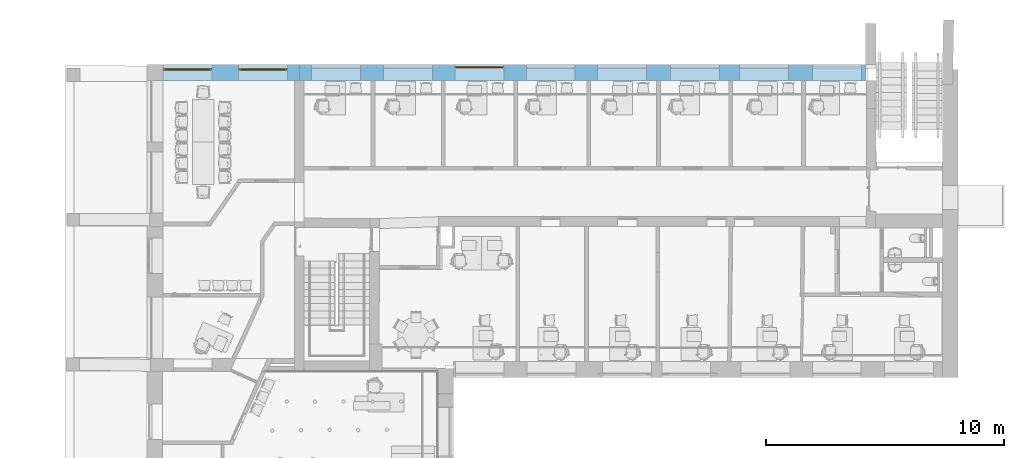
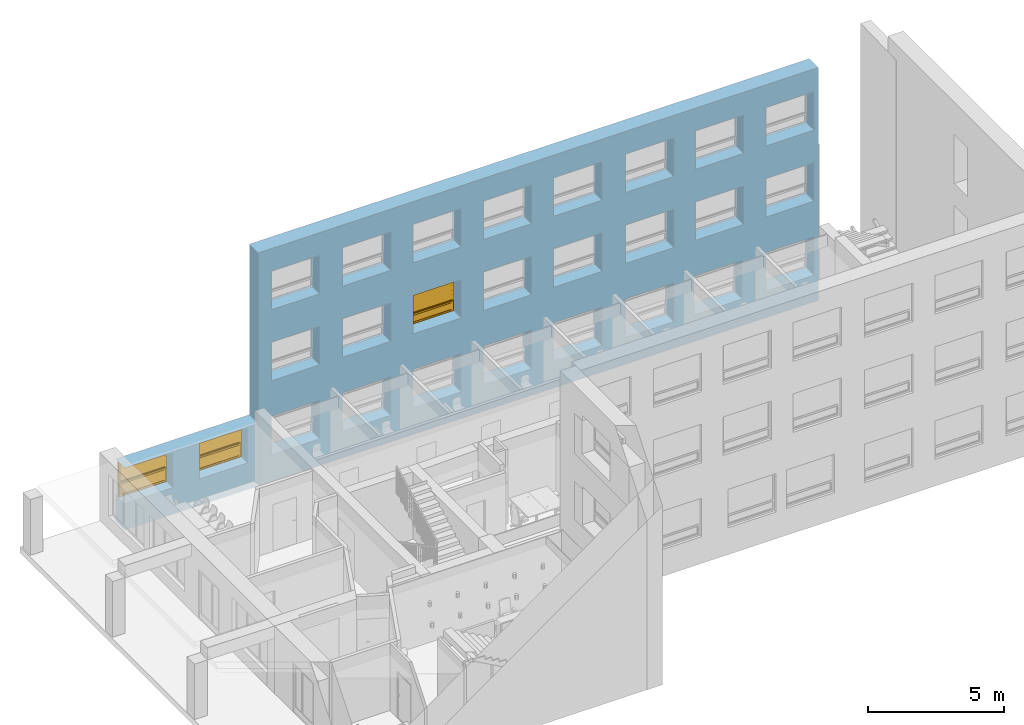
"""IFC2X3 building model written with IfcOpenShell, lengths in millimetres."""

import ifcopenshell
import ifcopenshell.guid

model = None  # the IFC model being written
_history = None  # IfcOwnerHistory: only IFC2X3 demands one
_inside = {}  # id of a spatial element -> (the spatial element, [elements in it])
_under = {}  # id of a project, library or spatial element -> (it, [spatial elements below it])
_declared = {}  # id of a project -> (the project, [libraries it declares])
_typed = {}  # id of a type object -> (the type object, [elements of that type])
_made_of = {}  # id of a material, layer set ... -> (it, [elements and type objects made of it])


def new_model(schema):
    """Start an empty IFC model of exactly this schema.

    Asked for "IFC4X3", IfcOpenShell would pick the latest addendum, in which some entities
    have other attributes; the version numbers below select the first issue.
    IFC2X3 requires an IfcOwnerHistory on every rooted entity: one is made here for all.
    """
    global model, _history
    if schema == "IFC4X3":
        model = ifcopenshell.file(schema_version=(4, 3, 0, 0))
    else:
        model = ifcopenshell.file(schema=schema)
    _inside.clear()
    _under.clear()
    _declared.clear()
    _typed.clear()
    _made_of.clear()
    _history = None
    if model.schema == "IFC2X3":
        org = make("IfcOrganization", Name="unknown")
        user = make(
            "IfcPersonAndOrganization",
            ThePerson=make("IfcPerson", FamilyName="unknown"),
            TheOrganization=org,
        )
        app = make(
            "IfcApplication",
            ApplicationDeveloper=org,
            Version="unknown",
            ApplicationFullName="unknown",
            ApplicationIdentifier="unknown",
        )
        _history = make(
            "IfcOwnerHistory",
            OwningUser=user,
            OwningApplication=app,
            ChangeAction="ADDED",
            CreationDate=0,
        )
    return model


def make(cls, **values):
    """One entity of the class cls with the attributes given. An attribute that is None is left unset."""
    return model.create_entity(
        cls, **{name: value for name, value in values.items() if value is not None}
    )


def entity(cls, *values):
    """Any entity or typed value of the class cls, its attributes in the order of the schema. None: left unset."""
    e = model.create_entity(cls)
    for i, value in enumerate(values):
        if value is not None:
            e[i] = value
    return e


def rooted(cls, **values):
    """An entity with a GlobalId (a new one), such as an element, a storey or a relation."""
    return make(cls, GlobalId=ifcopenshell.guid.new(), OwnerHistory=_history, **values)


def si_unit(unit_type, name, prefix=None):
    """IfcSIUnit, for example si_unit("LENGTHUNIT", "METRE", prefix="MILLI")."""
    return make("IfcSIUnit", UnitType=unit_type, Prefix=prefix, Name=name)


def converted_unit(unit_type, name, factor, base, dimensions=None, offset=None):
    """IfcConversionBasedUnit, such as the inch: factor (a typed value) times the base unit."""
    return make(
        "IfcConversionBasedUnit"
        if offset is None
        else "IfcConversionBasedUnitWithOffset",
        ConversionOffset=offset,
        Dimensions=None
        if dimensions is None
        else entity("IfcDimensionalExponents", *dimensions),
        UnitType=unit_type,
        Name=name,
        ConversionFactor=make(
            "IfcMeasureWithUnit", ValueComponent=factor, UnitComponent=base
        ),
    )


def derived_unit(unit_type, elements):
    """IfcDerivedUnit: a product of units, each with its exponent."""
    return make(
        "IfcDerivedUnit",
        Elements=[
            make("IfcDerivedUnitElement", Unit=unit, Exponent=power)
            for unit, power in elements
        ],
        UnitType=unit_type,
    )


def assignment(units):
    """IfcUnitAssignment: the units of a project."""
    return None if units is None else make("IfcUnitAssignment", Units=units)


def point(xyz):
    """IfcCartesianPoint."""
    return None if xyz is None else make("IfcCartesianPoint", Coordinates=xyz)


def direction(xyz):
    """IfcDirection."""
    return None if xyz is None else make("IfcDirection", DirectionRatios=xyz)


def frame(location, z_axis=None, x_axis=None):
    """IfcAxis2Placement3D, a coordinate frame: its origin and axes. An axis left out is left unset."""
    return make(
        "IfcAxis2Placement3D",
        Location=point(location),
        Axis=direction(z_axis),
        RefDirection=direction(x_axis),
    )


def frame_2d(location, x_axis=None):
    """IfcAxis2Placement2D, a coordinate frame in the plane: its origin and x axis."""
    return make(
        "IfcAxis2Placement2D", Location=point(location), RefDirection=direction(x_axis)
    )


def origin():
    """The frame at (0, 0, 0) with its axes left unset."""
    return frame((0.0, 0.0, 0.0))


def place(relative_to, where):
    """IfcLocalPlacement: puts the frame where relative to a parent placement (None: the world)."""
    return make(
        "IfcLocalPlacement", PlacementRelTo=relative_to, RelativePlacement=where
    )


def context(
    kind, dimensions, precision=None, world=None, true_north=None, identifier=None
):
    """IfcGeometricRepresentationContext, for example the 3D "Model" context."""
    return make(
        "IfcGeometricRepresentationContext",
        ContextIdentifier=identifier,
        ContextType=kind,
        CoordinateSpaceDimension=dimensions,
        Precision=precision,
        WorldCoordinateSystem=world,
        TrueNorth=true_north,
    )


def subcontext(parent, identifier, kind, view, scale=None):
    """IfcGeometricRepresentationSubContext, for example "Body" below "Model"."""
    return make(
        "IfcGeometricRepresentationSubContext",
        ContextIdentifier=identifier,
        ContextType=kind,
        ParentContext=parent,
        TargetScale=scale,
        TargetView=view,
    )


def project(units=None, contexts=None):
    """IfcProject with its units and contexts."""
    return rooted(
        "IfcProject",
        Name="project",
        RepresentationContexts=contexts,
        UnitsInContext=assignment(units),
    )


def spatial(cls, under=None, at=None, **own):
    """A site, building, storey or space (cls), placed at a placement, below another one or the project."""
    s = rooted(cls, ObjectPlacement=at, **own)
    if under is not None:
        _under.setdefault(under.id(), (under, []))[1].append(s)
    return s


def profile(cls, at=None, kind="AREA", **sizes):
    """A parametric profile (cls). Its sizes go by their IFC names, for example OverallWidth=200.0."""
    return make(cls, ProfileType=kind, Position=at, **sizes)


def rectangle(**sizes):
    """IfcRectangleProfileDef."""
    return profile("IfcRectangleProfileDef", **sizes)


def extrude(swept, where, along, depth):
    """IfcExtrudedAreaSolid: the profile swept, set in the frame where, extruded along a direction by depth."""
    return make(
        "IfcExtrudedAreaSolid",
        SweptArea=swept,
        Position=where,
        ExtrudedDirection=direction(along),
        Depth=depth,
    )


def faces_of(points, faces, orient=None, outer=None):
    """IfcFace entities. A face is a list of loops; a loop is a list of indices into points, from 0.

    orient and outer hold one flag for each loop. By default every Orientation is true, the
    first loop of a face is its IfcFaceOuterBound and the others are IfcFaceBound.
    """
    made = []
    for i, loops in enumerate(faces):
        bounds = []
        for j, loop in enumerate(loops):
            is_outer = j == 0 if outer is None else outer[i][j]
            bounds.append(
                make(
                    "IfcFaceOuterBound" if is_outer else "IfcFaceBound",
                    Bound=make("IfcPolyLoop", Polygon=[points[k] for k in loop]),
                    Orientation=True if orient is None else orient[i][j],
                )
            )
        made.append(make("IfcFace", Bounds=bounds))
    return made


def faceted_brep(points, faces, orient=None, outer=None, voids=None):
    """IfcFacetedBrep: a solid bounded by flat faces; with voids (closed shells), ...WithVoids."""
    shared = [point(p) for p in points]
    hull = make("IfcClosedShell", CfsFaces=faces_of(shared, faces, orient, outer))
    if voids is None:
        return make("IfcFacetedBrep", Outer=hull)
    return make(
        "IfcFacetedBrepWithVoids",
        Outer=hull,
        Voids=[
            make(cls, CfsFaces=faces_of(shared, fs, o, b)) for cls, fs, o, b in voids
        ],
    )


def shape(context_of_items, identifier, shape_type, items):
    """IfcShapeRepresentation: the items that make up one representation, for example the "Body"."""
    return make(
        "IfcShapeRepresentation",
        ContextOfItems=context_of_items,
        RepresentationIdentifier=identifier,
        RepresentationType=shape_type,
        Items=items,
    )


def source(mapping_origin, context_of_items, identifier, shape_type, items):
    """IfcRepresentationMap: a shape defined once, which mapped items show again and again."""
    return make(
        "IfcRepresentationMap",
        MappingOrigin=mapping_origin,
        MappedRepresentation=shape(context_of_items, identifier, shape_type, items),
    )


def transform(
    local_origin,
    x_axis=None,
    y_axis=None,
    z_axis=None,
    scale=None,
    scale2=None,
    scale3=None,
    uniform=True,
):
    """IfcCartesianTransformationOperator3D, or its non-uniform kind. x_axis, y_axis, z_axis: its Axis1, 2, 3."""
    if uniform:
        return make(
            "IfcCartesianTransformationOperator3D",
            Axis1=direction(x_axis),
            Axis2=direction(y_axis),
            LocalOrigin=point(local_origin),
            Scale=scale,
            Axis3=direction(z_axis),
        )
    return make(
        "IfcCartesianTransformationOperator3DnonUniform",
        Axis1=direction(x_axis),
        Axis2=direction(y_axis),
        LocalOrigin=point(local_origin),
        Scale=scale,
        Axis3=direction(z_axis),
        Scale2=scale2,
        Scale3=scale3,
    )


def mapped(mapping_source, mapping_target):
    """IfcMappedItem: shows the shape of a source again, moved by a transform."""
    return make(
        "IfcMappedItem", MappingSource=mapping_source, MappingTarget=mapping_target
    )


def material(Name=None, Category=None):
    """IfcMaterial."""
    return make("IfcMaterial", Name=Name, Category=Category)


def material_list(materials):
    """IfcMaterialList."""
    return make("IfcMaterialList", Materials=materials)


def layer(
    of_material, thickness, ventilated=None, Name=None, Category=None, Priority=None
):
    """IfcMaterialLayer: one layer of a wall or slab, of a material (None: an air gap)."""
    return make(
        "IfcMaterialLayer",
        Material=of_material,
        LayerThickness=thickness,
        IsVentilated=ventilated,
        Name=Name,
        Category=Category,
        Priority=Priority,
    )


def layer_set(layers, Name=None):
    """IfcMaterialLayerSet."""
    return make("IfcMaterialLayerSet", MaterialLayers=layers, LayerSetName=Name)


def layer_usage(for_layer_set, set_direction, sense, offset, extent=None):
    """IfcMaterialLayerSetUsage: how a layer set lies in its element."""
    return make(
        "IfcMaterialLayerSetUsage",
        ForLayerSet=for_layer_set,
        LayerSetDirection=set_direction,
        DirectionSense=sense,
        OffsetFromReferenceLine=offset,
        ReferenceExtent=extent,
    )


def made_of(thing, what):
    """Note that an element or type object is made of a material, layer set ...; save() writes the relation."""
    if what is not None:
        _made_of.setdefault(what.id(), (what, []))[1].append(thing)
    return thing


def type_object(cls, material=None, **own):
    """A type object (cls), such as IfcWallType, which elements share."""
    return made_of(rooted(cls, **own), material)


def type_shapes(of_type, sources):
    """Give a type object the sources (RepresentationMaps) that its elements show as mapped items."""
    of_type.RepresentationMaps = sources


def element(
    cls,
    number,
    at=None,
    inside=None,
    cuts=None,
    type_object=None,
    material=None,
    context=None,
    identifier="Body",
    shape_type=None,
    held_by="IfcProductDefinitionShape",
    body=None,
    shapes=None,
    **own,
):
    """One element of the class cls, such as IfcWall. Its Tag is "e" and its number.

    at: its placement. inside: the storey or other place that contains it. cuts: it is an
    opening in that element (IfcRelVoidsElement). A single representation is given by context,
    identifier, shape_type and body (its items); several are given by shapes. held_by: the class
    of the entity that holds the representations. save() writes the other relations.
    """
    e = rooted(cls, Tag="e%d" % number, ObjectPlacement=at, **own)
    if body is not None:
        shapes = [shape(context, identifier, shape_type, body)]
    if shapes is not None:
        e.Representation = make(held_by, Representations=shapes)
    if inside is not None:
        _inside.setdefault(inside.id(), (inside, []))[1].append(e)
    if cuts is not None:
        rooted(
            "IfcRelVoidsElement", RelatingBuildingElement=cuts, RelatedOpeningElement=e
        )
    if type_object is not None:
        _typed.setdefault(type_object.id(), (type_object, []))[1].append(e)
    return made_of(e, material)


def fill(opening, filler):
    """IfcRelFillsElement: the door or window that sits in an opening."""
    return rooted(
        "IfcRelFillsElement",
        RelatingOpeningElement=opening,
        RelatedBuildingElement=filler,
    )


def aggregate(whole, parts):
    """IfcRelAggregates: a whole, such as a stair, and the parts it consists of."""
    return rooted("IfcRelAggregates", RelatingObject=whole, RelatedObjects=parts)


def save(model, path):
    """Write the relations noted so far, then the file.

    IfcRelAggregates (storeys below a building ...), IfcRelContainedInSpatialStructure (elements
    in a storey), IfcRelDefinesByType, IfcRelAssociatesMaterial and IfcRelDeclares: one each for
    every whole, place, type object, material and project.
    """
    for whole, parts in _under.values():
        aggregate(whole, parts)
    for where, things in _inside.values():
        rooted(
            "IfcRelContainedInSpatialStructure",
            RelatedElements=things,
            RelatingStructure=where,
        )
    for kind, things in _typed.values():
        rooted("IfcRelDefinesByType", RelatedObjects=things, RelatingType=kind)
    for what, things in _made_of.values():
        rooted("IfcRelAssociatesMaterial", RelatedObjects=things, RelatingMaterial=what)
    for by, libraries in _declared.values():
        rooted("IfcRelDeclares", RelatingContext=by, RelatedDefinitions=libraries)
    model.write(path)


model = new_model("IFC2X3")

# Units and contexts
model_context = context("Model", 3, precision=0.01, world=origin(), true_north=direction((6.12303176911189e-17, 1.0)))
context_of_model = context(None, 3, precision=0.01, world=origin(), true_north=direction((6.12303176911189e-17, 1.0)))
body_context = subcontext(model_context, "Body", "Model", "MODEL_VIEW")
ifc_project = project(units=[si_unit("LENGTHUNIT", "METRE", prefix="MILLI"), si_unit("AREAUNIT", "SQUARE_METRE"), si_unit("VOLUMEUNIT", "CUBIC_METRE"), converted_unit("PLANEANGLEUNIT", "DEGREE", entity("IfcRatioMeasure", 0.0174532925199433), si_unit("PLANEANGLEUNIT", "RADIAN"), dimensions=[0, 0, 0, 0, 0, 0, 0]), si_unit("MASSUNIT", "GRAM", prefix="KILO"), derived_unit("MASSDENSITYUNIT", [(si_unit("MASSUNIT", "GRAM", prefix="KILO"), 1), (si_unit("LENGTHUNIT", "METRE"), -3)]), si_unit("TIMEUNIT", "SECOND"), si_unit("FREQUENCYUNIT", "HERTZ"), si_unit("THERMODYNAMICTEMPERATUREUNIT", "DEGREE_CELSIUS"), derived_unit("THERMALTRANSMITTANCEUNIT", [(si_unit("MASSUNIT", "GRAM", prefix="KILO"), 1), (si_unit("THERMODYNAMICTEMPERATUREUNIT", "KELVIN"), -1), (si_unit("TIMEUNIT", "SECOND"), -3)]), derived_unit("VOLUMETRICFLOWRATEUNIT", [(si_unit("LENGTHUNIT", "METRE"), 3), (si_unit("TIMEUNIT", "SECOND"), -1)]), si_unit("ELECTRICCURRENTUNIT", "AMPERE"), si_unit("ELECTRICVOLTAGEUNIT", "VOLT"), si_unit("POWERUNIT", "WATT"), si_unit("FORCEUNIT", "NEWTON", prefix="KILO"), si_unit("ILLUMINANCEUNIT", "LUX"), si_unit("LUMINOUSFLUXUNIT", "LUMEN"), si_unit("LUMINOUSINTENSITYUNIT", "CANDELA"), derived_unit("USERDEFINED", [(si_unit("MASSUNIT", "GRAM", prefix="KILO"), -1), (si_unit("LENGTHUNIT", "METRE"), -2), (si_unit("TIMEUNIT", "SECOND"), 3), (si_unit("LUMINOUSFLUXUNIT", "LUMEN"), 1)]), derived_unit("LINEARVELOCITYUNIT", [(si_unit("LENGTHUNIT", "METRE"), 1), (si_unit("TIMEUNIT", "SECOND"), -1)]), si_unit("PRESSUREUNIT", "PASCAL"), derived_unit("USERDEFINED", [(si_unit("LENGTHUNIT", "METRE"), -2), (si_unit("MASSUNIT", "GRAM", prefix="KILO"), 1), (si_unit("TIMEUNIT", "SECOND"), -2)])], contexts=[model_context, context_of_model])

# Site, building, storey
site_placement = place(None, frame((121442.264707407, 135347.995453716, -1800.0)))
site = spatial("IfcSite", under=ifc_project, at=site_placement, Name="Surface", CompositionType="ELEMENT")
building_placement = place(site_placement, origin())
building = spatial("IfcBuilding", under=site, at=building_placement, CompositionType="ELEMENT")
storey_1_placement = place(building_placement, frame((0.0, 0.0, 1800.0)))
storey_1 = spatial("IfcBuildingStorey", under=building, at=storey_1_placement, Name="1 korrus", CompositionType="ELEMENT", Elevation=1800.00000000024)

# Wall, openings
ifc_material_1 = material(Name="Plaster")
ifc_layer_1 = layer(ifc_material_1, 10.0)
ifc_material_2 = material(Name="Polystyrene")
ifc_layer_2 = layer(ifc_material_2, 150.0)
ifc_material_3 = material(Name="__Betoonelement")
ifc_layer_3 = layer(ifc_material_3, 500.0)
ifc_layer_set_1 = layer_set([ifc_layer_1, ifc_layer_2, ifc_layer_3], Name="Basic Wall:Olemasolev Soojustatud Välissein")
ifc_layer_usage_1 = layer_usage(ifc_layer_set_1, "AXIS2", "POSITIVE", -330.0)
wall_type_1 = type_object("IfcWallType", Name="Basic Wall:Olemasolev Soojustatud Välissein", PredefinedType="STANDARD", material=ifc_layer_set_1)
wall_1_placement = place(storey_1_placement, frame((-85315.1914993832, -115011.919112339, -300.0), z_axis=(0.0, 0.0, 1.0), x_axis=(-1.0, 0.0, 0.0)))
wall_1 = element("IfcWallStandardCase", 1, at=wall_1_placement, inside=storey_1, type_object=wall_type_1, material=ifc_layer_usage_1, Name="Basic Wall:Olemasolev Soojustatud Välissein", ObjectType="Basic Wall:Olemasolev Soojustatud Välissein", context=body_context, shape_type="SweptSolid", body=[
    extrude(rectangle(XDim=23782.0031187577, YDim=660.000000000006, at=frame_2d((12319.7873212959, -8.66862137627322e-12), x_axis=(-1.0, 0.0))), origin(), (0.0, 0.0, 1.0), 10460.0),
])
opening_1_placement = place(wall_1_placement, origin())
element("IfcOpeningElement", 2, at=opening_1_placement, cuts=wall_1, Name="Basic Wall:Olemasolev Soojustatud Välissein", ObjectType="Opening", context=body_context, shape_type="SweptSolid", body=[
    extrude(rectangle(XDim=1600.0, YDim=2050.0, at=frame_2d((-8.64019966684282e-12, 2.27373675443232e-13), x_axis=(0.0, 1.0))), frame((25702.8256414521, -1184.0, 2000.0), z_axis=(0.0, 1.0, 0.0), x_axis=(-1.0, 0.0, 0.0)), (0.0, 0.0, 1.0), 3048.0),
])
opening_2_placement = place(wall_1_placement, frame((23657.8256414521, 330.0, 1200.0)))
element("IfcOpeningElement", 3, at=opening_2_placement, cuts=wall_1, Name="sma_W2:A-1* 2050 x 1730mm Avatav:1", ObjectType="Opening", context=body_context, shape_type="SweptSolid", body=[
    extrude(rectangle(XDim=1730.0, YDim=2050.0, at=frame_2d((865.0, 1025.0), x_axis=(1.0, 0.0))), frame((0.0, 0.0, 0.0), z_axis=(0.0, -1.0, 0.0), x_axis=(0.0, 0.0, 1.0)), (0.0, 0.0, 1.0), 660.0),
])
opening_3_placement = place(wall_1_placement, frame((17649.9096963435, 330.0, 1200.0)))
element("IfcOpeningElement", 4, at=opening_3_placement, cuts=wall_1, Name="sma_W2:A-1* 2050 x 1730mm Avatav:1", ObjectType="Opening", context=body_context, shape_type="SweptSolid", body=[
    extrude(rectangle(XDim=1730.0, YDim=2050.0, at=frame_2d((865.0, 1025.0), x_axis=(1.0, 0.0))), frame((0.0, 0.0, 0.0), z_axis=(0.0, -1.0, 0.0), x_axis=(0.0, 0.0, 1.0)), (0.0, 0.0, 1.0), 660.0),
])
opening_4_placement = place(wall_1_placement, frame((20639.9096963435, 330.0, 1200.0)))
element("IfcOpeningElement", 5, at=opening_4_placement, cuts=wall_1, Name="sma_W2:A-1* 2050 x 1730mm Avatav:1", ObjectType="Opening", context=body_context, shape_type="SweptSolid", body=[
    extrude(rectangle(XDim=1730.0, YDim=2050.0, at=frame_2d((865.0, 1025.0), x_axis=(1.0, 0.0))), frame((0.0, 0.0, 0.0), z_axis=(0.0, -1.0, 0.0), x_axis=(0.0, 0.0, 1.0)), (0.0, 0.0, 1.0), 660.0),
])
opening_5_placement = place(wall_1_placement, frame((2659.90969634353, 330.0, 1200.0)))
element("IfcOpeningElement", 6, at=opening_5_placement, cuts=wall_1, Name="sma_W2:A-1* 2050 x 1730mm Avatav:1", ObjectType="Opening", context=body_context, shape_type="SweptSolid", body=[
    extrude(rectangle(XDim=1730.0, YDim=2050.0, at=frame_2d((865.0, 1025.0), x_axis=(1.0, 0.0))), frame((0.0, 0.0, 0.0), z_axis=(0.0, -1.0, 0.0), x_axis=(0.0, 0.0, 1.0)), (0.0, 0.0, 1.0), 660.0),
])
opening_6_placement = place(wall_1_placement, frame((5712.82564145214, 330.0, 1200.0)))
element("IfcOpeningElement", 7, at=opening_6_placement, cuts=wall_1, Name="sma_W2:A-1* 2050 x 1730mm Avatav:1", ObjectType="Opening", context=body_context, shape_type="SweptSolid", body=[
    extrude(rectangle(XDim=1730.0, YDim=2050.0, at=frame_2d((865.0, 1025.0), x_axis=(1.0, 0.0))), frame((0.0, 0.0, 0.0), z_axis=(0.0, -1.0, 0.0), x_axis=(0.0, 0.0, 1.0)), (0.0, 0.0, 1.0), 660.0),
])
opening_7_placement = place(wall_1_placement, frame((8619.90969634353, 330.0, 1200.0)))
element("IfcOpeningElement", 8, at=opening_7_placement, cuts=wall_1, Name="sma_W2:A-1* 2050 x 1730mm Avatav:1", ObjectType="Opening", context=body_context, shape_type="SweptSolid", body=[
    extrude(rectangle(XDim=1730.0, YDim=2050.0, at=frame_2d((865.0, 1025.0), x_axis=(1.0, 0.0))), frame((0.0, 0.0, 0.0), z_axis=(0.0, -1.0, 0.0), x_axis=(0.0, 0.0, 1.0)), (0.0, 0.0, 1.0), 660.0),
])
opening_8_placement = place(wall_1_placement, frame((11669.9096963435, 330.0, 1200.0)))
element("IfcOpeningElement", 9, at=opening_8_placement, cuts=wall_1, Name="sma_W2:A-1* 2050 x 1730mm Avatav:1", ObjectType="Opening", context=body_context, shape_type="SweptSolid", body=[
    extrude(rectangle(XDim=1730.0, YDim=2050.0, at=frame_2d((865.0, 1025.0), x_axis=(1.0, 0.0))), frame((0.0, 0.0, 0.0), z_axis=(0.0, -1.0, 0.0), x_axis=(0.0, 0.0, 1.0)), (0.0, 0.0, 1.0), 660.0),
])
opening_9_placement = place(wall_1_placement, frame((14659.9096963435, 330.0, 1200.0)))
element("IfcOpeningElement", 10, at=opening_9_placement, cuts=wall_1, Name="sma_W2:A-1* 2050 x 1730mm Avatav:1", ObjectType="Opening", context=body_context, shape_type="SweptSolid", body=[
    extrude(rectangle(XDim=1730.0, YDim=2050.0, at=frame_2d((865.0, 1025.0), x_axis=(1.0, 0.0))), frame((0.0, 0.0, 0.0), z_axis=(0.0, -1.0, 0.0), x_axis=(0.0, 0.0, 1.0)), (0.0, 0.0, 1.0), 660.0),
])
opening_10_placement = place(wall_1_placement, frame((2659.90969634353, 330.0, 4525.0)))
element("IfcOpeningElement", 11, at=opening_10_placement, cuts=wall_1, Name="sma_W2:A-1* 2050 x 1730mm Avatav:1", ObjectType="Opening", context=body_context, shape_type="SweptSolid", body=[
    extrude(rectangle(XDim=1730.0, YDim=2050.0, at=frame_2d((865.0, 1025.0), x_axis=(1.0, 0.0))), frame((0.0, 0.0, 0.0), z_axis=(0.0, -1.0, 0.0), x_axis=(0.0, 0.0, 1.0)), (0.0, 0.0, 1.0), 660.0),
])
opening_11_placement = place(wall_1_placement, frame((5649.90969634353, 330.0, 4525.0)))
element("IfcOpeningElement", 12, at=opening_11_placement, cuts=wall_1, Name="sma_W2:A-1* 2050 x 1730mm Avatav:1", ObjectType="Opening", context=body_context, shape_type="SweptSolid", body=[
    extrude(rectangle(XDim=1730.0, YDim=2050.0, at=frame_2d((865.0, 1025.0), x_axis=(1.0, 0.0))), frame((0.0, 0.0, 0.0), z_axis=(0.0, -1.0, 0.0), x_axis=(0.0, 0.0, 1.0)), (0.0, 0.0, 1.0), 660.0),
])
opening_12_placement = place(wall_1_placement, frame((8619.90969634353, 330.0, 4525.0)))
element("IfcOpeningElement", 13, at=opening_12_placement, cuts=wall_1, Name="sma_W2:A-1* 2050 x 1730mm Avatav:1", ObjectType="Opening", context=body_context, shape_type="SweptSolid", body=[
    extrude(rectangle(XDim=1730.0, YDim=2050.0, at=frame_2d((865.0, 1025.0), x_axis=(1.0, 0.0))), frame((0.0, 0.0, 0.0), z_axis=(0.0, -1.0, 0.0), x_axis=(0.0, 0.0, 1.0)), (0.0, 0.0, 1.0), 660.0),
])
opening_13_placement = place(wall_1_placement, frame((11669.9096963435, 330.0, 4525.0)))
element("IfcOpeningElement", 14, at=opening_13_placement, cuts=wall_1, Name="sma_W2:A-1* 2050 x 1730mm Avatav:1", ObjectType="Opening", context=body_context, shape_type="SweptSolid", body=[
    extrude(rectangle(XDim=1730.0, YDim=2050.0, at=frame_2d((865.0, 1025.0), x_axis=(1.0, 0.0))), frame((0.0, 0.0, 0.0), z_axis=(0.0, -1.0, 0.0), x_axis=(0.0, 0.0, 1.0)), (0.0, 0.0, 1.0), 660.0),
])
opening_14_placement = place(wall_1_placement, frame((14659.9096963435, 330.0, 4525.0)))
element("IfcOpeningElement", 15, at=opening_14_placement, cuts=wall_1, Name="sma_W2:A-1* 2050 x 1730mm Avatav:1", ObjectType="Opening", context=body_context, shape_type="SweptSolid", body=[
    extrude(rectangle(XDim=1730.0, YDim=2050.0, at=frame_2d((865.0, 1025.0), x_axis=(1.0, 0.0))), frame((0.0, 0.0, 0.0), z_axis=(0.0, -1.0, 0.0), x_axis=(0.0, 0.0, 1.0)), (0.0, 0.0, 1.0), 660.0),
])
opening_15_placement = place(wall_1_placement, frame((17649.9096963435, 330.0, 4525.0)))
opening_15 = element("IfcOpeningElement", 16, at=opening_15_placement, cuts=wall_1, Name="sma_W2:A-1* 2050 x 1730mm Avatav:1", ObjectType="Opening", context=body_context, shape_type="SweptSolid", body=[
    extrude(rectangle(XDim=1730.0, YDim=2050.0, at=frame_2d((865.0, 1025.0), x_axis=(1.0, 0.0))), frame((0.0, 0.0, 0.0), z_axis=(0.0, -1.0, 0.0), x_axis=(0.0, 0.0, 1.0)), (0.0, 0.0, 1.0), 660.0),
])
opening_16_placement = place(wall_1_placement, frame((20639.9096963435, 330.0, 4525.0)))
element("IfcOpeningElement", 17, at=opening_16_placement, cuts=wall_1, Name="sma_W2:A-1* 2050 x 1730mm Avatav:1", ObjectType="Opening", context=body_context, shape_type="SweptSolid", body=[
    extrude(rectangle(XDim=1730.0, YDim=2050.0, at=frame_2d((865.0, 1025.0), x_axis=(1.0, 0.0))), frame((0.0, 0.0, 0.0), z_axis=(0.0, -1.0, 0.0), x_axis=(0.0, 0.0, 1.0)), (0.0, 0.0, 1.0), 660.0),
])
opening_17_placement = place(wall_1_placement, frame((2659.90969634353, 330.0, 7715.0)))
element("IfcOpeningElement", 18, at=opening_17_placement, cuts=wall_1, Name="sma_W2:A-1* 2050 x 1730mm Avatav:1", ObjectType="Opening", context=body_context, shape_type="SweptSolid", body=[
    extrude(rectangle(XDim=1730.0, YDim=2050.0, at=frame_2d((865.0, 1025.0), x_axis=(1.0, 0.0))), frame((0.0, 0.0, 0.0), z_axis=(0.0, -1.0, 0.0), x_axis=(0.0, 0.0, 1.0)), (0.0, 0.0, 1.0), 660.0),
])
opening_18_placement = place(wall_1_placement, frame((5649.90969634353, 330.0, 7715.0)))
element("IfcOpeningElement", 19, at=opening_18_placement, cuts=wall_1, Name="sma_W2:A-1* 2050 x 1730mm Avatav:1", ObjectType="Opening", context=body_context, shape_type="SweptSolid", body=[
    extrude(rectangle(XDim=1730.0, YDim=2050.0, at=frame_2d((865.0, 1025.0), x_axis=(1.0, 0.0))), frame((0.0, 0.0, 0.0), z_axis=(0.0, -1.0, 0.0), x_axis=(0.0, 0.0, 1.0)), (0.0, 0.0, 1.0), 660.0),
])
opening_19_placement = place(wall_1_placement, frame((8619.90969634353, 330.0, 7715.0)))
element("IfcOpeningElement", 20, at=opening_19_placement, cuts=wall_1, Name="sma_W2:A-1* 2050 x 1730mm Avatav:1", ObjectType="Opening", context=body_context, shape_type="SweptSolid", body=[
    extrude(rectangle(XDim=1730.0, YDim=2050.0, at=frame_2d((865.0, 1025.0), x_axis=(1.0, 0.0))), frame((0.0, 0.0, 0.0), z_axis=(0.0, -1.0, 0.0), x_axis=(0.0, 0.0, 1.0)), (0.0, 0.0, 1.0), 660.0),
])
opening_20_placement = place(wall_1_placement, frame((11669.9096963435, 330.0, 7715.0)))
element("IfcOpeningElement", 21, at=opening_20_placement, cuts=wall_1, Name="sma_W2:A-1* 2050 x 1730mm Avatav:1", ObjectType="Opening", context=body_context, shape_type="SweptSolid", body=[
    extrude(rectangle(XDim=1730.0, YDim=2050.0, at=frame_2d((865.0, 1025.0), x_axis=(1.0, 0.0))), frame((0.0, 0.0, 0.0), z_axis=(0.0, -1.0, 0.0), x_axis=(0.0, 0.0, 1.0)), (0.0, 0.0, 1.0), 660.0),
])
opening_21_placement = place(wall_1_placement, frame((14659.9096963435, 330.0, 7715.0)))
element("IfcOpeningElement", 22, at=opening_21_placement, cuts=wall_1, Name="sma_W2:A-1* 2050 x 1730mm Avatav:1", ObjectType="Opening", context=body_context, shape_type="SweptSolid", body=[
    extrude(rectangle(XDim=1730.0, YDim=2050.0, at=frame_2d((865.0, 1025.0), x_axis=(1.0, 0.0))), frame((0.0, 0.0, 0.0), z_axis=(0.0, -1.0, 0.0), x_axis=(0.0, 0.0, 1.0)), (0.0, 0.0, 1.0), 660.0),
])
opening_22_placement = place(wall_1_placement, frame((17649.9096963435, 330.0, 7715.0)))
element("IfcOpeningElement", 23, at=opening_22_placement, cuts=wall_1, Name="sma_W2:A-1* 2050 x 1730mm Avatav:1", ObjectType="Opening", context=body_context, shape_type="SweptSolid", body=[
    extrude(rectangle(XDim=1730.0, YDim=2050.0, at=frame_2d((865.0, 1025.0), x_axis=(1.0, 0.0))), frame((0.0, 0.0, 0.0), z_axis=(0.0, -1.0, 0.0), x_axis=(0.0, 0.0, 1.0)), (0.0, 0.0, 1.0), 660.0),
])
opening_23_placement = place(wall_1_placement, frame((20639.9096963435, 330.0, 7715.0)))
element("IfcOpeningElement", 24, at=opening_23_placement, cuts=wall_1, Name="sma_W2:A-1* 2050 x 1730mm Avatav:1", ObjectType="Opening", context=body_context, shape_type="SweptSolid", body=[
    extrude(rectangle(XDim=1730.0, YDim=2050.0, at=frame_2d((865.0, 1025.0), x_axis=(1.0, 0.0))), frame((0.0, 0.0, 0.0), z_axis=(0.0, -1.0, 0.0), x_axis=(0.0, 0.0, 1.0)), (0.0, 0.0, 1.0), 660.0),
])
opening_24_placement = place(wall_1_placement, frame((23657.8256414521, 330.0, 4525.0)))
element("IfcOpeningElement", 25, at=opening_24_placement, cuts=wall_1, Name="sma_W2:A-1* 2050 x 1730mm Avatav:1", ObjectType="Opening", context=body_context, shape_type="SweptSolid", body=[
    extrude(rectangle(XDim=1730.0, YDim=2050.0, at=frame_2d((865.0, 1025.0), x_axis=(1.0, 0.0))), frame((0.0, 0.0, 0.0), z_axis=(0.0, -1.0, 0.0), x_axis=(0.0, 0.0, 1.0)), (0.0, 0.0, 1.0), 660.0),
])
opening_25_placement = place(wall_1_placement, frame((23657.8256414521, 330.0, 7715.0)))
element("IfcOpeningElement", 26, at=opening_25_placement, cuts=wall_1, Name="sma_W2:A-1* 2050 x 1730mm Avatav:1", ObjectType="Opening", context=body_context, shape_type="SweptSolid", body=[
    extrude(rectangle(XDim=1730.0, YDim=2050.0, at=frame_2d((865.0, 1025.0), x_axis=(1.0, 0.0))), frame((0.0, 0.0, 0.0), z_axis=(0.0, -1.0, 0.0), x_axis=(0.0, 0.0, 1.0)), (0.0, 0.0, 1.0), 660.0),
])

# Storey
storey_2_placement = place(building_placement, frame((0.0, 0.0, 5125.0)))
storey_2 = spatial("IfcBuildingStorey", under=building, at=storey_2_placement, Name="2 korrus", CompositionType="ELEMENT", Elevation=5125.00000000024)

# Window
ifc_material_4 = material(Name="PVC")
ifc_material_5 = material(Name="Glass")
ifc_material_list_1 = material_list([ifc_material_4, ifc_material_5])
ifc_material_list_2 = material_list([ifc_material_4, ifc_material_5])
window_style_1 = type_object("IfcWindowStyle", Name="A-1* 2050 x 1730mm Avatav", ConstructionType="OTHER_CONSTRUCTION", OperationType="NOTDEFINED", ParameterTakesPrecedence=False, Sizeable=False, material=ifc_material_list_2)
shared_shape_1 = source(origin(), body_context, "Body", "Brep", [
    faceted_brep([(0.0, 542.428777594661, 0.0), (2050.0, 542.428777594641, 0.0), (2050.0, 542.428777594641, 1730.0), (0.0, 542.428777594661, 1730.0), (35.0, 542.42877759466, 35.0), (35.0, 542.42877759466, 480.0), (2015.0, 542.428777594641, 480.0), (2015.0, 542.428777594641, 35.0), (1980.0, 542.428777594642, 515.0), (70.0, 542.42877759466, 515.0), (70.0, 542.42877759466, 1660.0), (1980.0, 542.428777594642, 1660.0), (0.0, 592.428777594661, 0.0), (2050.0, 592.428777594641, 0.0), (2050.0, 592.428777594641, 1730.0), (0.0, 592.428777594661, 1730.0), (35.0, 567.42877759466, 35.0), (35.0, 567.42877759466, 480.0), (2015.0, 567.428777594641, 480.0), (2015.0, 567.428777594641, 35.0), (70.0, 592.42877759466, 70.0), (1980.0, 592.428777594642, 70.0), (1980.0, 592.428777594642, 445.0), (70.0, 592.42877759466, 445.0), (1980.0, 592.428777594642, 515.0), (1980.0, 592.428777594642, 1660.0), (70.0, 592.42877759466, 1660.0), (70.0, 592.42877759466, 515.0), (70.0, 567.42877759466, 70.0), (1980.0, 567.428777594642, 70.0), (1980.0, 567.428777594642, 445.0), (70.0, 567.42877759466, 445.0)], [[[0, 1, 2, 3], [4, 5, 6, 7], [8, 9, 10, 11]], [[1, 0, 12, 13]], [[2, 1, 13, 14]], [[0, 3, 15, 12]], [[16, 17, 5, 4]], [[17, 18, 6, 5]], [[18, 19, 7, 6]], [[19, 16, 4, 7]], [[12, 15, 14, 13], [20, 21, 22, 23], [24, 25, 26, 27]], [[21, 20, 28, 29]], [[22, 21, 29, 30]], [[23, 22, 30, 31]], [[20, 23, 31, 28]], [[17, 16, 19, 18], [28, 31, 30, 29]], [[3, 2, 14, 15]], [[10, 9, 27, 26]], [[11, 10, 26, 25]], [[8, 11, 25, 24]], [[9, 8, 24, 27]]]),
    faceted_brep([(105.0, 532.42877759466, 105.0), (1945.0, 532.428777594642, 105.0), (1945.0, 532.428777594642, 410.0), (105.0, 532.42877759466, 410.0), (105.0, 552.42877759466, 105.0), (105.0, 552.42877759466, 410.0), (1945.0, 552.428777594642, 410.0), (1945.0, 552.428777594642, 105.0)], [[[0, 1, 2, 3]], [[4, 5, 6, 7]], [[1, 0, 4, 7]], [[2, 1, 7, 6]], [[3, 2, 6, 5]], [[0, 3, 5, 4]]]),
    faceted_brep([(35.0, 517.42877759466, 35.0), (2015.0, 517.428777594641, 35.0), (2015.0, 517.428777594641, 480.0), (35.0, 517.42877759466, 480.0), (105.0, 517.42877759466, 105.0), (105.0, 517.42877759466, 410.0), (1945.0, 517.428777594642, 410.0), (1945.0, 517.428777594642, 105.0), (35.0, 567.42877759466, 35.0), (35.0, 567.42877759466, 480.0), (2015.0, 567.428777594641, 480.0), (2015.0, 567.428777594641, 35.0), (105.0, 567.42877759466, 105.0), (1945.0, 567.428777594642, 105.0), (1945.0, 567.428777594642, 410.0), (105.0, 567.42877759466, 410.0)], [[[0, 1, 2, 3], [4, 5, 6, 7]], [[8, 9, 10, 11], [12, 13, 14, 15]], [[1, 0, 8, 11]], [[2, 1, 11, 10]], [[3, 2, 10, 9]], [[0, 3, 9, 8]], [[5, 4, 12, 15]], [[6, 5, 15, 14]], [[7, 6, 14, 13]], [[4, 7, 13, 12]]]),
    faceted_brep([(70.0, 557.42877759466, 515.0), (1980.0, 557.428777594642, 515.0), (1980.0, 557.428777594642, 1660.0), (70.0, 557.42877759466, 1660.0), (1980.0, 577.428777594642, 515.0), (1980.0, 577.428777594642, 1660.0), (70.0, 577.42877759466, 1660.0), (70.0, 577.42877759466, 515.0)], [[[0, 1, 2, 3]], [[2, 1, 4, 5]], [[3, 2, 5, 6]], [[0, 3, 6, 7]], [[7, 6, 5, 4]], [[1, 0, 7, 4]]]),
])
type_shapes(window_style_1, [shared_shape_1])
window_1_placement = place(opening_15_placement, frame((0.0, 0.0, 0.0), z_axis=(0.0, 0.0, 1.0), x_axis=(-1.0, 0.0, 0.0)))
window_1 = element("IfcWindow", 27, at=window_1_placement, inside=storey_2, type_object=window_style_1, material=ifc_material_list_1, Name="sma_W2:A-1* 2050 x 1730mm Avatav", ObjectType="A-1* 2050 x 1730mm Avatav", OverallHeight=1730.0, OverallWidth=2050.0, context=body_context, shape_type="MappedRepresentation", body=[
    mapped(shared_shape_1, transform((0.0, 0.0, 0.0), scale=1.0)),
])

fill(opening_15, window_1)

# Wall, openings, windows
ifc_layer_4 = layer(ifc_material_1, 10.0)
ifc_material_6 = material(Name="EST. Soojustus. Kivivill. Default")
ifc_layer_5 = layer(ifc_material_6, 200.0)
ifc_material_7 = material(Name="EST. Müüritis. Väikeplokk. Kergkruusplokk")
ifc_layer_6 = layer(ifc_material_7, 450.0)
ifc_layer_7 = layer(ifc_material_1, 10.0)
ifc_layer_set_2 = layer_set([ifc_layer_4, ifc_layer_5, ifc_layer_6, ifc_layer_7], Name="Basic Wall:Uus Välissein +  Soojustus")
ifc_layer_usage_2 = layer_usage(ifc_layer_set_2, "AXIS2", "NEGATIVE", 335.0)
wall_type_2 = type_object("IfcWallType", Name="Basic Wall:Uus Välissein +  Soojustus", PredefinedType="STANDARD", material=ifc_layer_set_2)
wall_2_placement = place(storey_1_placement, frame((-115215.776610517, -115016.919112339, -293.0)))
wall_2 = element("IfcWallStandardCase", 28, at=wall_2_placement, inside=storey_1, type_object=wall_type_2, material=ifc_layer_usage_2, Name="Basic Wall:Uus Välissein +  Soojustus", ObjectType="Basic Wall:Uus Välissein +  Soojustus", context=body_context, shape_type="SweptSolid", body=[
    extrude(rectangle(XDim=5722.75946968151, YDim=669.999999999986, at=frame_2d((2861.37973484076, -3.97903932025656e-13), x_axis=(-1.0, 0.0))), origin(), (0.0, 0.0, 1.0), 2795.56563604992),
])
opening_26_placement = place(wall_2_placement, frame((0.0, -335.0, 1193.0)))
opening_26 = element("IfcOpeningElement", 29, at=opening_26_placement, cuts=wall_2, Name="sma_W2:A-2 2050 x 1430mm Avatav:1", ObjectType="Opening", context=body_context, shape_type="SweptSolid", body=[
    extrude(rectangle(XDim=1600.0, YDim=2050.0, at=frame_2d((800.0, 1025.0), x_axis=(1.0, 0.0))), frame((0.0, 0.0, 0.0), z_axis=(0.0, 1.0, 0.0), x_axis=(0.0, 0.0, 1.0)), (0.0, 0.0, 1.0), 670.0),
])
opening_27_placement = place(wall_2_placement, frame((3172.75946968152, -335.0, 1193.0)))
opening_27 = element("IfcOpeningElement", 30, at=opening_27_placement, cuts=wall_2, Name="sma_W2:A-2 2050 x 1430mm Avatav:1", ObjectType="Opening", context=body_context, shape_type="SweptSolid", body=[
    extrude(rectangle(XDim=1600.0, YDim=2050.0, at=frame_2d((800.0, 1025.0), x_axis=(1.0, 0.0))), frame((0.0, 0.0, 0.0), z_axis=(0.0, 1.0, 0.0), x_axis=(0.0, 0.0, 1.0)), (0.0, 0.0, 1.0), 670.0),
])
ifc_material_list_3 = material_list([ifc_material_4, ifc_material_5])
ifc_material_list_4 = material_list([ifc_material_4, ifc_material_5])
window_style_2 = type_object("IfcWindowStyle", Name="A-2 2050 x 1430mm Avatav", ConstructionType="OTHER_CONSTRUCTION", OperationType="NOTDEFINED", ParameterTakesPrecedence=False, Sizeable=False, material=ifc_material_list_4)
shared_shape_2 = source(origin(), body_context, "Body", "Brep", [
    faceted_brep([(0.0, 459.98298338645, 0.0), (2050.0, 459.98298338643, 0.0), (2050.0, 459.98298338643, 1600.0), (0.0, 459.98298338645, 1600.0), (35.0, 459.98298338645, 35.0), (35.0, 459.98298338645, 650.0), (2015.0, 459.982983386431, 650.0), (2015.0, 459.982983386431, 35.0), (1980.0, 459.982983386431, 685.0), (70.0, 459.982983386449, 685.0), (70.0, 459.982983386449, 1530.0), (1980.0, 459.982983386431, 1530.0), (0.0, 509.98298338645, 0.0), (2050.0, 509.98298338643, 0.0), (2050.0, 509.98298338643, 1600.0), (0.0, 509.98298338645, 1600.0), (35.0, 484.98298338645, 35.0), (35.0, 484.98298338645, 650.0), (2015.0, 484.982983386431, 650.0), (2015.0, 484.982983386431, 35.0), (70.0, 509.982983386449, 70.0), (1980.0, 509.982983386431, 70.0), (1980.0, 509.982983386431, 615.0), (70.0, 509.982983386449, 615.0), (1980.0, 509.982983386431, 685.0), (1980.0, 509.982983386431, 1530.0), (70.0, 509.982983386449, 1530.0), (70.0, 509.982983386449, 685.0), (70.0, 484.982983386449, 70.0), (1980.0, 484.982983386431, 70.0), (1980.0, 484.982983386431, 615.0), (70.0, 484.982983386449, 615.0)], [[[0, 1, 2, 3], [4, 5, 6, 7], [8, 9, 10, 11]], [[1, 0, 12, 13]], [[2, 1, 13, 14]], [[0, 3, 15, 12]], [[16, 17, 5, 4]], [[18, 19, 7, 6]], [[19, 16, 4, 7]], [[12, 15, 14, 13], [20, 21, 22, 23], [24, 25, 26, 27]], [[21, 20, 28, 29]], [[22, 21, 29, 30]], [[20, 23, 31, 28]], [[17, 16, 19, 18], [28, 31, 30, 29]], [[3, 2, 14, 15]], [[10, 9, 27, 26]], [[11, 10, 26, 25]], [[8, 11, 25, 24]], [[23, 22, 30, 31]], [[9, 8, 24, 27]], [[17, 18, 6, 5]]]),
    faceted_brep([(105.0, 449.982983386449, 105.0), (1945.0, 449.982983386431, 105.0), (1945.0, 449.982983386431, 580.0), (105.0, 449.982983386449, 580.0), (105.0, 469.982983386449, 105.0), (1945.0, 469.982983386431, 105.0), (1945.0, 469.982983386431, 580.0), (105.0, 469.982983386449, 580.0)], [[[0, 1, 2, 3]], [[1, 0, 4, 5]], [[2, 1, 5, 6]], [[0, 3, 7, 4]], [[4, 7, 6, 5]], [[3, 2, 6, 7]]]),
    faceted_brep([(35.0, 434.98298338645, 35.0), (2015.0, 434.982983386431, 35.0), (2015.0, 434.982983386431, 650.0), (35.0, 434.98298338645, 650.0), (105.0, 434.982983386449, 105.0), (105.0, 434.982983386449, 580.0), (1945.0, 434.982983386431, 580.0), (1945.0, 434.982983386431, 105.0), (35.0, 484.98298338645, 35.0), (2015.0, 484.982983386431, 35.0), (2015.0, 484.982983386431, 650.0), (35.0, 484.98298338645, 650.0), (105.0, 484.982983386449, 105.0), (105.0, 484.982983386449, 580.0), (1945.0, 484.982983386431, 580.0), (1945.0, 484.982983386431, 105.0)], [[[0, 1, 2, 3], [4, 5, 6, 7]], [[1, 0, 8, 9]], [[2, 1, 9, 10]], [[0, 3, 11, 8]], [[5, 4, 12, 13]], [[7, 6, 14, 15]], [[4, 7, 15, 12]], [[8, 11, 10, 9], [12, 15, 14, 13]], [[3, 2, 10, 11]], [[6, 5, 13, 14]]]),
    faceted_brep([(70.0, 474.982983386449, 685.0), (1980.0, 474.982983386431, 685.0), (1980.0, 474.982983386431, 1530.0), (70.0, 474.982983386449, 1530.0), (1980.0, 494.982983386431, 685.0), (1980.0, 494.982983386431, 1530.0), (70.0, 494.982983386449, 1530.0), (70.0, 494.982983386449, 685.0)], [[[0, 1, 2, 3]], [[2, 1, 4, 5]], [[3, 2, 5, 6]], [[0, 3, 6, 7]], [[7, 6, 5, 4]], [[1, 0, 7, 4]]]),
])
type_shapes(window_style_2, [shared_shape_2])
window_2_placement = place(opening_27_placement, origin())
window_2 = element("IfcWindow", 31, at=window_2_placement, inside=storey_1, type_object=window_style_2, material=ifc_material_list_3, Name="sma_W2:A-2 2050 x 1430mm Avatav", ObjectType="A-2 2050 x 1430mm Avatav", OverallHeight=1600.0, OverallWidth=2050.0, context=body_context, shape_type="MappedRepresentation", body=[
    mapped(shared_shape_2, transform((0.0, 0.0, 0.0), scale=1.0)),
])
fill(opening_27, window_2)
ifc_material_list_5 = material_list([ifc_material_4, ifc_material_5])
ifc_material_list_6 = material_list([ifc_material_4, ifc_material_5])
window_style_3 = type_object("IfcWindowStyle", Name="A-2 2050 x 1430mm Avatav", ConstructionType="OTHER_CONSTRUCTION", OperationType="NOTDEFINED", ParameterTakesPrecedence=False, Sizeable=False, material=ifc_material_list_6)
shared_shape_3 = source(origin(), body_context, "Body", "Brep", [
    faceted_brep([(0.0, 460.911553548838, 0.0), (2050.0, 460.911553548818, 0.0), (2050.0, 460.911553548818, 1600.0), (0.0, 460.911553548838, 1600.0), (35.0, 460.911553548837, 35.0), (35.0, 460.911553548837, 650.0), (2015.0, 460.911553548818, 650.0), (2015.0, 460.911553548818, 35.0), (1980.0, 460.911553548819, 685.0), (70.0, 460.911553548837, 685.0), (70.0, 460.911553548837, 1530.0), (1980.0, 460.911553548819, 1530.0), (0.0, 510.911553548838, 0.0), (2050.0, 510.911553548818, 0.0), (2050.0, 510.911553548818, 1600.0), (0.0, 510.911553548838, 1600.0), (35.0, 485.911553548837, 35.0), (35.0, 485.911553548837, 650.0), (2015.0, 485.911553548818, 650.0), (2015.0, 485.911553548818, 35.0), (70.0, 510.911553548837, 70.0), (1980.0, 510.911553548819, 70.0), (1980.0, 510.911553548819, 615.0), (70.0, 510.911553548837, 615.0), (1980.0, 510.911553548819, 685.0), (1980.0, 510.911553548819, 1530.0), (70.0, 510.911553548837, 1530.0), (70.0, 510.911553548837, 685.0), (70.0, 485.911553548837, 70.0), (1980.0, 485.911553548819, 70.0), (1980.0, 485.911553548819, 615.0), (70.0, 485.911553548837, 615.0)], [[[0, 1, 2, 3], [4, 5, 6, 7], [8, 9, 10, 11]], [[1, 0, 12, 13]], [[2, 1, 13, 14]], [[0, 3, 15, 12]], [[16, 17, 5, 4]], [[18, 19, 7, 6]], [[19, 16, 4, 7]], [[12, 15, 14, 13], [20, 21, 22, 23], [24, 25, 26, 27]], [[21, 20, 28, 29]], [[22, 21, 29, 30]], [[20, 23, 31, 28]], [[17, 16, 19, 18], [28, 31, 30, 29]], [[3, 2, 14, 15]], [[10, 9, 27, 26]], [[11, 10, 26, 25]], [[8, 11, 25, 24]], [[23, 22, 30, 31]], [[9, 8, 24, 27]], [[17, 18, 6, 5]]]),
    faceted_brep([(105.0, 450.911553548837, 105.0), (1945.0, 450.911553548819, 105.0), (1945.0, 450.911553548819, 580.0), (105.0, 450.911553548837, 580.0), (105.0, 470.911553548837, 105.0), (1945.0, 470.911553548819, 105.0), (1945.0, 470.911553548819, 580.0), (105.0, 470.911553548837, 580.0)], [[[0, 1, 2, 3]], [[1, 0, 4, 5]], [[2, 1, 5, 6]], [[0, 3, 7, 4]], [[4, 7, 6, 5]], [[3, 2, 6, 7]]]),
    faceted_brep([(35.0, 435.911553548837, 35.0), (2015.0, 435.911553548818, 35.0), (2015.0, 435.911553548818, 650.0), (35.0, 435.911553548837, 650.0), (105.0, 435.911553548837, 105.0), (105.0, 435.911553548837, 580.0), (1945.0, 435.911553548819, 580.0), (1945.0, 435.911553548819, 105.0), (35.0, 485.911553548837, 35.0), (2015.0, 485.911553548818, 35.0), (2015.0, 485.911553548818, 650.0), (35.0, 485.911553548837, 650.0), (105.0, 485.911553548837, 105.0), (105.0, 485.911553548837, 580.0), (1945.0, 485.911553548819, 580.0), (1945.0, 485.911553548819, 105.0)], [[[0, 1, 2, 3], [4, 5, 6, 7]], [[1, 0, 8, 9]], [[2, 1, 9, 10]], [[0, 3, 11, 8]], [[5, 4, 12, 13]], [[7, 6, 14, 15]], [[4, 7, 15, 12]], [[8, 11, 10, 9], [12, 15, 14, 13]], [[3, 2, 10, 11]], [[6, 5, 13, 14]]]),
    faceted_brep([(70.0, 475.911553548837, 685.0), (1980.0, 475.911553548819, 685.0), (1980.0, 475.911553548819, 1530.0), (70.0, 475.911553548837, 1530.0), (1980.0, 495.911553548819, 685.0), (1980.0, 495.911553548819, 1530.0), (70.0, 495.911553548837, 1530.0), (70.0, 495.911553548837, 685.0)], [[[0, 1, 2, 3]], [[2, 1, 4, 5]], [[3, 2, 5, 6]], [[0, 3, 6, 7]], [[7, 6, 5, 4]], [[1, 0, 7, 4]]]),
])
type_shapes(window_style_3, [shared_shape_3])
window_3_placement = place(opening_26_placement, origin())
window_3 = element("IfcWindow", 32, at=window_3_placement, inside=storey_1, type_object=window_style_3, material=ifc_material_list_5, Name="sma_W2:A-2 2050 x 1430mm Avatav", ObjectType="A-2 2050 x 1430mm Avatav", OverallHeight=1600.0, OverallWidth=2050.0, context=body_context, shape_type="MappedRepresentation", body=[
    mapped(shared_shape_3, transform((0.0, 0.0, 0.0), scale=1.0)),
])
fill(opening_26, window_3)

save(model, "model.ifc")
